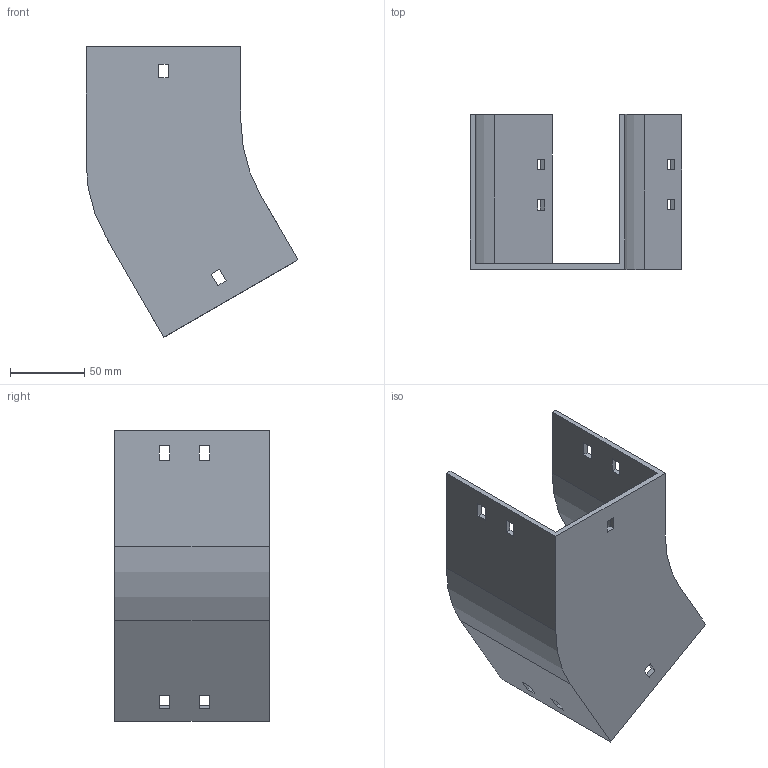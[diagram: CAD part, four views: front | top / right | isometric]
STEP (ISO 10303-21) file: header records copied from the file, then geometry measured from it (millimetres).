
FILE_DESCRIPTION (( 'STEP AP214' ), '1' );
FILE_NAME ('12B1D100.step', '2025-02-21T09:33:23', ( '' ), ( '' ), 'SwSTEP 2.0', 'SolidWorks 2023', '' );
FILE_SCHEMA (( 'AUTOMOTIVE_DESIGN' ));
Length unit declared in the file: millimetre
Products named in the file (1): 12B1D100
Bounding box: 142.4 x 104 x 195.3 mm (x, y, z)
Volume: 190470.1 mm3; surface area: 113405.6 mm2
Topology: 1 solids, 1 shells, 58 faces, 168 edges, 112 vertices
Faces by surface type: plane 54, cylinder 4
Entity records: 1943 total; most frequent: CARTESIAN_POINT 339, ORIENTED_EDGE 336, DIRECTION 294, EDGE_CURVE 168, VECTOR 160, LINE 160, VERTEX_POINT 112, EDGE_LOOP 78
